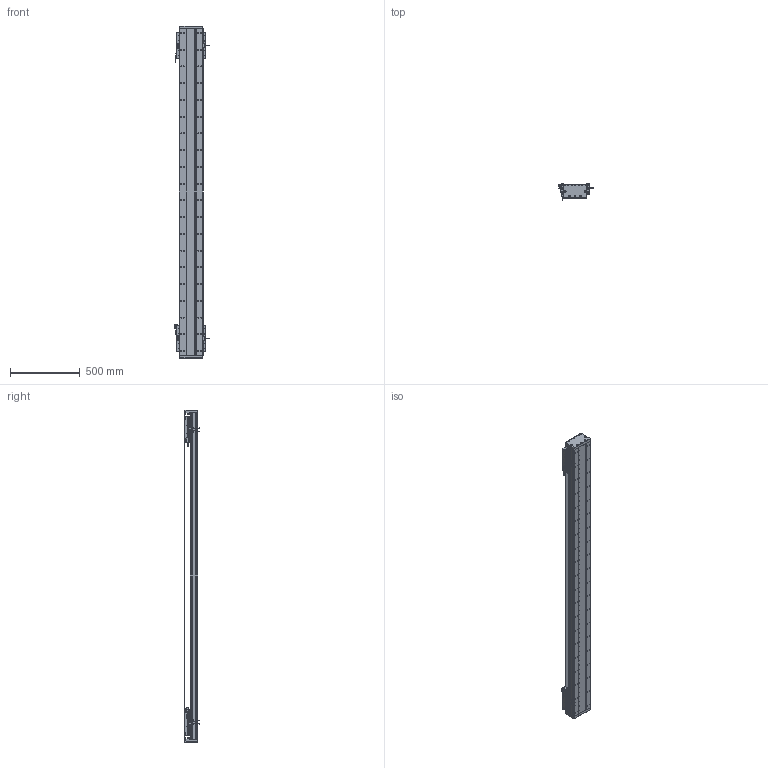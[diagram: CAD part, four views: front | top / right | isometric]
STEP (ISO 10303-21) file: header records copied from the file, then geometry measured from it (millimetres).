
FILE_DESCRIPTION (( 'STEP AP203' ), '1' );
FILE_NAME ('DA-C165-2-C2-T1880-C010-0.2 直线电机.STEP', '2023-05-11T08:25:14', ( '微软用户' ), ( '微软中国' ), 'SwSTEP 2.0', 'SolidWorks 2019', '' );
FILE_SCHEMA (( 'CONFIG_CONTROL_DESIGN' ));
Length unit declared in the file: millimetre
Products named in the file (22): 复件 DKW-HXJ-JY-00 缓冲橡胶^DA-C165-C2-T-C010-0.2-N 直线电机; 复件 DA126-GYP-ZJ-00 中间光电感应片^DA-C165-C2-T-C010-0.2-N 直线电机; IU-CU165-L 菁釱絳寢; 复件 DA165-GYP-00 光电感应片^DA-C165-C2-T-C010-0.2-N 直线电机; 复件 XD-U-02L 磁栅尺^DA-C165-C2-T-C010-0.2-N 直线电机_T; 葩璃 CKM01-W075-TRL^DA-C165-C2-T-C010-0.2-N 眻盄萇儂; IU-CU165-L-00 菁釱_L2340; 葩璃 PM-T45^DA-C165-C2-T-C010-0.2-N 眻盄萇儂; 复件 CKM02-W075-C1C2-TP-3.0 一体电机-C2^DA-C165-C2-T-C010-0.2-N 直线电机; 复件 DA165-GD-DG-H-00 端盖^复件 CU165钢带组件_DA-C165-C2-T-C010-0.2-N 直线电机; 复件 六角薄螺母 M3^DA-C165-C2-T-C010-0.2-N 直线电机_GB_FASTENER_NUT_STNAB M3-C; 复件 DMA-010-0.2 读数头^DA-C165-C2-T-C010-0.2-N 直线电机; 珨极趙賑雄怢啣wf-C2; 复件 DA165-GD-1860-002-00 钢带盖板^复件 CU165钢带组件_DA-C165-C2-T-C010-0.2-N 直线电机; 复件 CU165钢带组件^DA-C165-C2-T-C010-0.2-N 直线电机; 复件 66338-1000-006-00 光电感应块^DA-C165-C2-T-C010-0.2-N 直线电机; 复件 DA95-HXJ-00 缓冲橡胶^DA-C165-C2-T-C010-0.2-N 直线电机; DA-C165-2-C2-T1880-C010-0.2 眻盄萇儂; 葩璃 PM-Y45^DA-C165-C2-T-C010-0.2-N 眻盄萇儂; 复件 DA165-GDLK-00 钢带拉块^复件 CU165钢带组件_DA-C165-C2-T-C010-0.2-N 直线电机; 葩璃 DA95-GT-T-00^IU-CU165-L 菁釱絳寢_T; 复件 DA165-GDYK-00 钢带压块^复件 CU165钢带组件_DA-C165-C2-T-C010-0.2-N 直线电机
Assembly tree (43 placements, depth 3):
  DA-C165-2-C2-T1880-C010-0.2 眻盄萇儂
    IU-CU165-L 菁釱絳寢
      IU-CU165-L-00 菁釱_L2340
      葩璃 DA95-GT-T-00^IU-CU165-L 菁釱絳寢_T  x4
    复件 XD-U-02L 磁栅尺^DA-C165-C2-T-C010-0.2-N 直线电机_T
    葩璃 PM-T45^DA-C165-C2-T-C010-0.2-N 眻盄萇儂  x4
    葩璃 CKM01-W075-TRL^DA-C165-C2-T-C010-0.2-N 眻盄萇儂
    复件 CU165钢带组件^DA-C165-C2-T-C010-0.2-N 直线电机
      复件 DA165-GD-DG-H-00 端盖^复件 CU165钢带组件_DA-C165-C2-T-C010-0.2-N 直线电机  x2
      复件 DA165-GDYK-00 钢带压块^复件 CU165钢带组件_DA-C165-C2-T-C010-0.2-N 直线电机  x2
      复件 DA165-GD-1860-002-00 钢带盖板^复件 CU165钢带组件_DA-C165-C2-T-C010-0.2-N 直线电机
      复件 DA165-GDLK-00 钢带拉块^复件 CU165钢带组件_DA-C165-C2-T-C010-0.2-N 直线电机  x2
    复件 DA95-HXJ-00 缓冲橡胶^DA-C165-C2-T-C010-0.2-N 直线电机  x4
    复件 CKM02-W075-C1C2-TP-3.0 一体电机-C2^DA-C165-C2-T-C010-0.2-N 直线电机  x2
    复件 DMA-010-0.2 读数头^DA-C165-C2-T-C010-0.2-N 直线电机  x2
    复件 DA165-GYP-00 光电感应片^DA-C165-C2-T-C010-0.2-N 直线电机  x2
    复件 66338-1000-006-00 光电感应块^DA-C165-C2-T-C010-0.2-N 直线电机
    葩璃 PM-Y45^DA-C165-C2-T-C010-0.2-N 眻盄萇儂
    复件 DA126-GYP-ZJ-00 中间光电感应片^DA-C165-C2-T-C010-0.2-N 直线电机
    复件 DKW-HXJ-JY-00 缓冲橡胶^DA-C165-C2-T-C010-0.2-N 直线电机  x2
    复件 六角薄螺母 M3^DA-C165-C2-T-C010-0.2-N 直线电机_GB_FASTENER_NUT_STNAB M3-C  x6
    珨极趙賑雄怢啣wf-C2  x2
Bounding box: 247.2 x 111.45 x 2380 mm (x, y, z)
Volume: 15013077.9 mm3; surface area: 4315031.7 mm2
Topology: 119 solids, 119 shells, 5539 faces, 15456 edges, 9736 vertices
Faces by surface type: cylinder 2948, plane 1799, cone 704, torus 80, sphere 8
Entity records: 130384 total; most frequent: CARTESIAN_POINT 34327, ORIENTED_EDGE 19856, DIRECTION 19246, EDGE_CURVE 9928, AXIS2_PLACEMENT_3D 7290, VERTEX_POINT 6473, LINE 4666, VECTOR 4666
